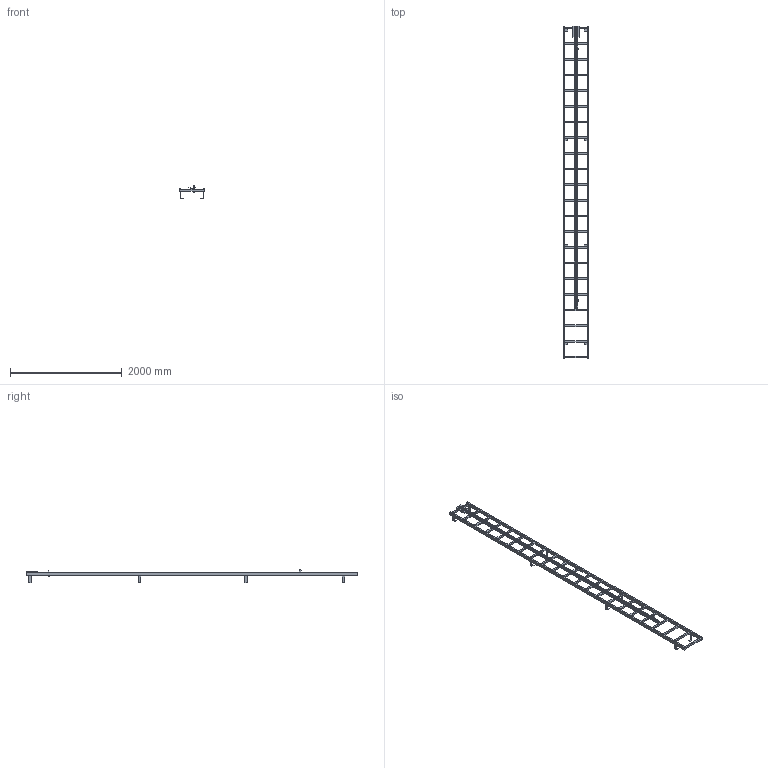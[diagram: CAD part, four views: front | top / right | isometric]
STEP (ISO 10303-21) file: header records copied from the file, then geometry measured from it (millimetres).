
FILE_DESCRIPTION((''),'2;1');
FILE_NAME('52330188','2024-12-05T08:55:35',('wep'),('HUBER SE'),'CREO PARAMETRIC BY PTC INC, 2022162','CREO PARAMETRIC BY PTC INC, 2022162','');
FILE_SCHEMA(('AUTOMOTIVE_DESIGN { 1 0 10303 214 1 1 1 1 }'));
Length unit declared in the file: millimetre
Products named in the file (1): 52330188
Bounding box: 450 x 5930 x 239 mm (x, y, z)
Volume: 25653016 mm3; surface area: 4446184.9 mm2
Topology: 2 solids, 2 shells, 356 faces, 1048 edges, 688 vertices
Faces by surface type: plane 356
Entity records: 12359 total; most frequent: ORIENTED_EDGE 2096, CARTESIAN_POINT 2094, DIRECTION 1760, VECTOR 1048, LINE 1048, EDGE_CURVE 1048, VERTEX_POINT 688, EDGE_LOOP 466
